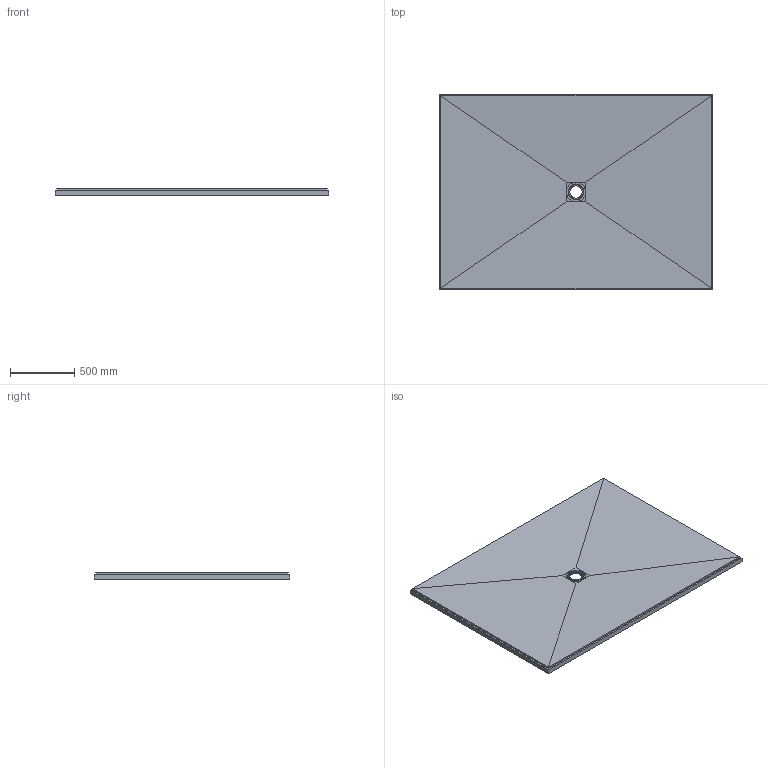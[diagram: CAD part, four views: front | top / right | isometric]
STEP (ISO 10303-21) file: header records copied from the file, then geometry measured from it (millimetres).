
FILE_DESCRIPTION(/* description */ ('Fertigteil'),/* implementation_level */ '2;1');
FILE_NAME(/* name */ 'C:\Users\fuser-vault-job\AppData\Local\Temp\MuM_2nm32bn0.sep\D-000001156.iam_.step',/* time_stamp */ '2022-07-14T10:18:35+02:00',/* author */ ('ds'),/* organization */ (''),/* preprocessor_version */ 'ST-DEVELOPER v18.1',/* originating_system */ 'Autodesk Inventor 2020',/* authorisation */ '');
FILE_SCHEMA (('AUTOMOTIVE_DESIGN { 1 0 10303 214 3 1 1 }'));
Products named in the file (3): 073740060; 073740060_1; DD0000003
Assembly tree (2 placements, depth 2):
  073740060
    073740060_1
    DD0000003
Bounding box: 2133.6 x 1524 x 50 mm (x, y, z)
Volume: 129469099.2 mm3; surface area: 6894679.8 mm2
Topology: 2 solids, 2 shells, 743 faces, 2189 edges, 1474 vertices
Faces by surface type: bspline 372, torus 115, cone 78, cylinder 76, plane 68, sphere 34
Full cylindrical faces by diameter (mm): 6 x3, 151 x1
Entity records: 63140 total; most frequent: CARTESIAN_POINT 44892, ORIENTED_EDGE 4322, DIRECTION 3297, EDGE_CURVE 2161, VERTEX_POINT 1456, AXIS2_PLACEMENT_3D 1338, CIRCLE 812, EDGE_LOOP 803
